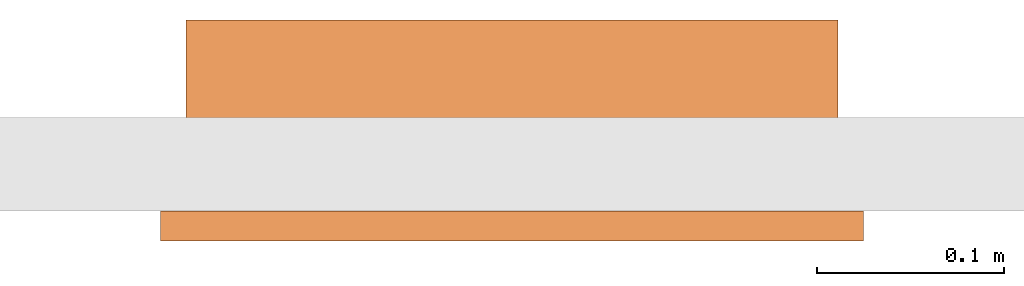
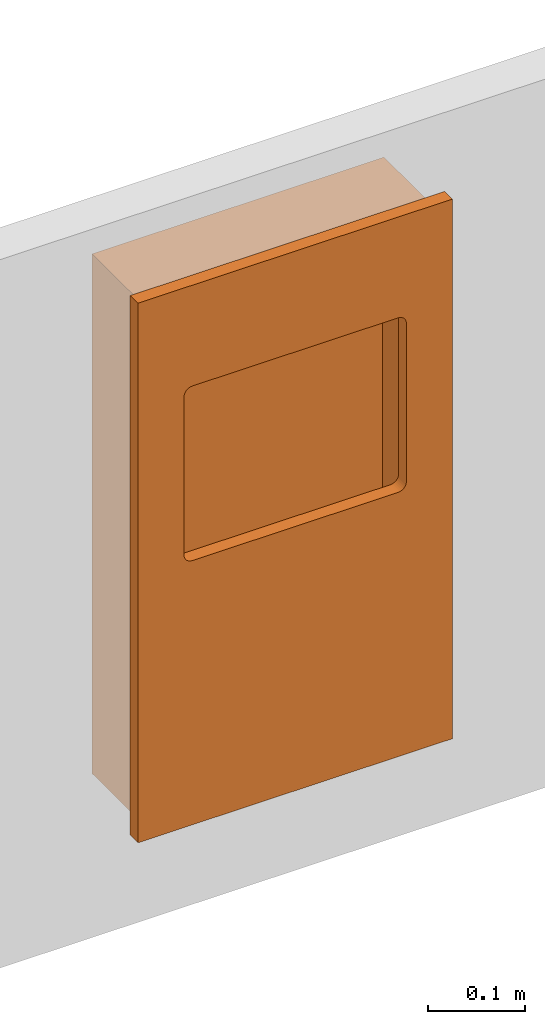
# One storey, part 2 of 2: 1 proxy, 1 opening.
"""IFC2X3 building model written with IfcOpenShell, lengths in millimetres."""

import ifcopenshell
import ifcopenshell.guid

model = None  # the IFC model being written
_history = None  # IfcOwnerHistory: only IFC2X3 demands one
_inside = {}  # id of a spatial element -> (the spatial element, [elements in it])
_under = {}  # id of a project, library or spatial element -> (it, [spatial elements below it])
_declared = {}  # id of a project -> (the project, [libraries it declares])
_typed = {}  # id of a type object -> (the type object, [elements of that type])
_made_of = {}  # id of a material, layer set ... -> (it, [elements and type objects made of it])


def new_model(schema):
    """Start an empty IFC model of exactly this schema.

    Asked for "IFC4X3", IfcOpenShell would pick the latest addendum, in which some entities
    have other attributes; the version numbers below select the first issue.
    IFC2X3 requires an IfcOwnerHistory on every rooted entity: one is made here for all.
    """
    global model, _history
    if schema == "IFC4X3":
        model = ifcopenshell.file(schema_version=(4, 3, 0, 0))
    else:
        model = ifcopenshell.file(schema=schema)
    _inside.clear()
    _under.clear()
    _declared.clear()
    _typed.clear()
    _made_of.clear()
    _history = None
    if model.schema == "IFC2X3":
        org = make("IfcOrganization", Name="unknown")
        user = make(
            "IfcPersonAndOrganization",
            ThePerson=make("IfcPerson", FamilyName="unknown"),
            TheOrganization=org,
        )
        app = make(
            "IfcApplication",
            ApplicationDeveloper=org,
            Version="unknown",
            ApplicationFullName="unknown",
            ApplicationIdentifier="unknown",
        )
        _history = make(
            "IfcOwnerHistory",
            OwningUser=user,
            OwningApplication=app,
            ChangeAction="ADDED",
            CreationDate=0,
        )
    return model


def make(cls, **values):
    """One entity of the class cls with the attributes given. An attribute that is None is left unset."""
    return model.create_entity(
        cls, **{name: value for name, value in values.items() if value is not None}
    )


def entity(cls, *values):
    """Any entity or typed value of the class cls, its attributes in the order of the schema. None: left unset."""
    e = model.create_entity(cls)
    for i, value in enumerate(values):
        if value is not None:
            e[i] = value
    return e


def rooted(cls, **values):
    """An entity with a GlobalId (a new one), such as an element, a storey or a relation."""
    return make(cls, GlobalId=ifcopenshell.guid.new(), OwnerHistory=_history, **values)


def si_unit(unit_type, name, prefix=None):
    """IfcSIUnit, for example si_unit("LENGTHUNIT", "METRE", prefix="MILLI")."""
    return make("IfcSIUnit", UnitType=unit_type, Prefix=prefix, Name=name)


def converted_unit(unit_type, name, factor, base, dimensions=None, offset=None):
    """IfcConversionBasedUnit, such as the inch: factor (a typed value) times the base unit."""
    return make(
        "IfcConversionBasedUnit"
        if offset is None
        else "IfcConversionBasedUnitWithOffset",
        ConversionOffset=offset,
        Dimensions=None
        if dimensions is None
        else entity("IfcDimensionalExponents", *dimensions),
        UnitType=unit_type,
        Name=name,
        ConversionFactor=make(
            "IfcMeasureWithUnit", ValueComponent=factor, UnitComponent=base
        ),
    )


def derived_unit(unit_type, elements):
    """IfcDerivedUnit: a product of units, each with its exponent."""
    return make(
        "IfcDerivedUnit",
        Elements=[
            make("IfcDerivedUnitElement", Unit=unit, Exponent=power)
            for unit, power in elements
        ],
        UnitType=unit_type,
    )


def assignment(units):
    """IfcUnitAssignment: the units of a project."""
    return None if units is None else make("IfcUnitAssignment", Units=units)


def point(xyz):
    """IfcCartesianPoint."""
    return None if xyz is None else make("IfcCartesianPoint", Coordinates=xyz)


def direction(xyz):
    """IfcDirection."""
    return None if xyz is None else make("IfcDirection", DirectionRatios=xyz)


def frame(location, z_axis=None, x_axis=None):
    """IfcAxis2Placement3D, a coordinate frame: its origin and axes. An axis left out is left unset."""
    return make(
        "IfcAxis2Placement3D",
        Location=point(location),
        Axis=direction(z_axis),
        RefDirection=direction(x_axis),
    )


def frame_2d(location, x_axis=None):
    """IfcAxis2Placement2D, a coordinate frame in the plane: its origin and x axis."""
    return make(
        "IfcAxis2Placement2D", Location=point(location), RefDirection=direction(x_axis)
    )


def origin():
    """The frame at (0, 0, 0) with its axes left unset."""
    return frame((0.0, 0.0, 0.0))


def place(relative_to, where):
    """IfcLocalPlacement: puts the frame where relative to a parent placement (None: the world)."""
    return make(
        "IfcLocalPlacement", PlacementRelTo=relative_to, RelativePlacement=where
    )


def context(
    kind, dimensions, precision=None, world=None, true_north=None, identifier=None
):
    """IfcGeometricRepresentationContext, for example the 3D "Model" context."""
    return make(
        "IfcGeometricRepresentationContext",
        ContextIdentifier=identifier,
        ContextType=kind,
        CoordinateSpaceDimension=dimensions,
        Precision=precision,
        WorldCoordinateSystem=world,
        TrueNorth=true_north,
    )


def subcontext(parent, identifier, kind, view, scale=None):
    """IfcGeometricRepresentationSubContext, for example "Body" below "Model"."""
    return make(
        "IfcGeometricRepresentationSubContext",
        ContextIdentifier=identifier,
        ContextType=kind,
        ParentContext=parent,
        TargetScale=scale,
        TargetView=view,
    )


def project(units=None, contexts=None):
    """IfcProject with its units and contexts."""
    return rooted(
        "IfcProject",
        Name="project",
        RepresentationContexts=contexts,
        UnitsInContext=assignment(units),
    )


def spatial(cls, under=None, at=None, **own):
    """A site, building, storey or space (cls), placed at a placement, below another one or the project."""
    s = rooted(cls, ObjectPlacement=at, **own)
    if under is not None:
        _under.setdefault(under.id(), (under, []))[1].append(s)
    return s


def polyline(points):
    """IfcPolyline through the points."""
    return make("IfcPolyline", Points=[point(p) for p in points])


def circle_curve(where, radius):
    """IfcCircle in the frame where."""
    return make("IfcCircle", Position=where, Radius=radius)


def parameter(value):
    """IfcParameterValue: where a trimmed curve begins or ends, as a parameter of its basis curve."""
    return model.create_entity("IfcParameterValue", value)


def trimmed(basis, trim1, trim2, sense, master):
    """IfcTrimmedCurve: the piece of a basis curve between two trims."""
    return make(
        "IfcTrimmedCurve",
        BasisCurve=basis,
        Trim1=trim1,
        Trim2=trim2,
        SenseAgreement=sense,
        MasterRepresentation=master,
    )


def segment(curve, same_sense, transition):
    """IfcCompositeCurveSegment."""
    return make(
        "IfcCompositeCurveSegment",
        Transition=transition,
        SameSense=same_sense,
        ParentCurve=curve,
    )


def composite_curve(segments, self_intersect=None):
    """IfcCompositeCurve: segments joined end to end."""
    return make("IfcCompositeCurve", Segments=segments, SelfIntersect=self_intersect)


def profile(cls, at=None, kind="AREA", **sizes):
    """A parametric profile (cls). Its sizes go by their IFC names, for example OverallWidth=200.0."""
    return make(cls, ProfileType=kind, Position=at, **sizes)


def rectangle(**sizes):
    """IfcRectangleProfileDef."""
    return profile("IfcRectangleProfileDef", **sizes)


def outline(outer, holes=None, kind="AREA"):
    """IfcArbitraryClosedProfileDef: a profile drawn as a closed curve; with holes, ...WithVoids."""
    if holes is None:
        return make("IfcArbitraryClosedProfileDef", ProfileType=kind, OuterCurve=outer)
    return make(
        "IfcArbitraryProfileDefWithVoids",
        ProfileType=kind,
        OuterCurve=outer,
        InnerCurves=holes,
    )


def extrude(swept, where, along, depth):
    """IfcExtrudedAreaSolid: the profile swept, set in the frame where, extruded along a direction by depth."""
    return make(
        "IfcExtrudedAreaSolid",
        SweptArea=swept,
        Position=where,
        ExtrudedDirection=direction(along),
        Depth=depth,
    )


def shape(context_of_items, identifier, shape_type, items):
    """IfcShapeRepresentation: the items that make up one representation, for example the "Body"."""
    return make(
        "IfcShapeRepresentation",
        ContextOfItems=context_of_items,
        RepresentationIdentifier=identifier,
        RepresentationType=shape_type,
        Items=items,
    )


def source(mapping_origin, context_of_items, identifier, shape_type, items):
    """IfcRepresentationMap: a shape defined once, which mapped items show again and again."""
    return make(
        "IfcRepresentationMap",
        MappingOrigin=mapping_origin,
        MappedRepresentation=shape(context_of_items, identifier, shape_type, items),
    )


def transform(
    local_origin,
    x_axis=None,
    y_axis=None,
    z_axis=None,
    scale=None,
    scale2=None,
    scale3=None,
    uniform=True,
):
    """IfcCartesianTransformationOperator3D, or its non-uniform kind. x_axis, y_axis, z_axis: its Axis1, 2, 3."""
    if uniform:
        return make(
            "IfcCartesianTransformationOperator3D",
            Axis1=direction(x_axis),
            Axis2=direction(y_axis),
            LocalOrigin=point(local_origin),
            Scale=scale,
            Axis3=direction(z_axis),
        )
    return make(
        "IfcCartesianTransformationOperator3DnonUniform",
        Axis1=direction(x_axis),
        Axis2=direction(y_axis),
        LocalOrigin=point(local_origin),
        Scale=scale,
        Axis3=direction(z_axis),
        Scale2=scale2,
        Scale3=scale3,
    )


def mapped(mapping_source, mapping_target):
    """IfcMappedItem: shows the shape of a source again, moved by a transform."""
    return make(
        "IfcMappedItem", MappingSource=mapping_source, MappingTarget=mapping_target
    )


def material(Name=None, Category=None):
    """IfcMaterial."""
    return make("IfcMaterial", Name=Name, Category=Category)


def material_list(materials):
    """IfcMaterialList."""
    return make("IfcMaterialList", Materials=materials)


def made_of(thing, what):
    """Note that an element or type object is made of a material, layer set ...; save() writes the relation."""
    if what is not None:
        _made_of.setdefault(what.id(), (what, []))[1].append(thing)
    return thing


def element(
    cls,
    number,
    at=None,
    inside=None,
    cuts=None,
    type_object=None,
    material=None,
    context=None,
    identifier="Body",
    shape_type=None,
    held_by="IfcProductDefinitionShape",
    body=None,
    shapes=None,
    **own,
):
    """One element of the class cls, such as IfcWall. Its Tag is "e" and its number.

    at: its placement. inside: the storey or other place that contains it. cuts: it is an
    opening in that element (IfcRelVoidsElement). A single representation is given by context,
    identifier, shape_type and body (its items); several are given by shapes. held_by: the class
    of the entity that holds the representations. save() writes the other relations.
    """
    e = rooted(cls, Tag="e%d" % number, ObjectPlacement=at, **own)
    if body is not None:
        shapes = [shape(context, identifier, shape_type, body)]
    if shapes is not None:
        e.Representation = make(held_by, Representations=shapes)
    if inside is not None:
        _inside.setdefault(inside.id(), (inside, []))[1].append(e)
    if cuts is not None:
        rooted(
            "IfcRelVoidsElement", RelatingBuildingElement=cuts, RelatedOpeningElement=e
        )
    if type_object is not None:
        _typed.setdefault(type_object.id(), (type_object, []))[1].append(e)
    return made_of(e, material)


def aggregate(whole, parts):
    """IfcRelAggregates: a whole, such as a stair, and the parts it consists of."""
    return rooted("IfcRelAggregates", RelatingObject=whole, RelatedObjects=parts)


def save(model, path):
    """Write the relations noted so far, then the file.

    IfcRelAggregates (storeys below a building ...), IfcRelContainedInSpatialStructure (elements
    in a storey), IfcRelDefinesByType, IfcRelAssociatesMaterial and IfcRelDeclares: one each for
    every whole, place, type object, material and project.
    """
    for whole, parts in _under.values():
        aggregate(whole, parts)
    for where, things in _inside.values():
        rooted(
            "IfcRelContainedInSpatialStructure",
            RelatedElements=things,
            RelatingStructure=where,
        )
    for kind, things in _typed.values():
        rooted("IfcRelDefinesByType", RelatedObjects=things, RelatingType=kind)
    for what, things in _made_of.values():
        rooted("IfcRelAssociatesMaterial", RelatedObjects=things, RelatingMaterial=what)
    for by, libraries in _declared.values():
        rooted("IfcRelDeclares", RelatingContext=by, RelatedDefinitions=libraries)
    model.write(path)


model = new_model("IFC2X3")

# Units and contexts
model_context = context("Model", 3, precision=1e-05, world=origin(), true_north=direction((2.0, 6.12303176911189e-17, 1.0)))
context_of_model = context(None, 3, precision=1e-05, world=origin(), true_north=direction((2.0, 6.12303176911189e-17, 1.0)))
body_context = subcontext(model_context, "Body", "Model", "MODEL_VIEW")
ifc_project = project(units=[si_unit("LENGTHUNIT", "METRE", prefix="MILLI"), si_unit("AREAUNIT", "SQUARE_METRE"), si_unit("VOLUMEUNIT", "CUBIC_METRE"), converted_unit("PLANEANGLEUNIT", "DEGREE", entity("IfcRatioMeasure", 0.0174532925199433), si_unit("PLANEANGLEUNIT", "RADIAN"), dimensions=[0, 0, 0, 0, 0, 0, 0]), si_unit("MASSUNIT", "GRAM", prefix="KILO"), si_unit("TIMEUNIT", "SECOND"), si_unit("THERMODYNAMICTEMPERATUREUNIT", "KELVIN"), derived_unit("THERMALTRANSMITTANCEUNIT", [(si_unit("MASSUNIT", "GRAM", prefix="KILO"), 1), (si_unit("THERMODYNAMICTEMPERATUREUNIT", "KELVIN"), -1), (si_unit("TIMEUNIT", "SECOND"), -3)]), derived_unit("VOLUMETRICFLOWRATEUNIT", [(si_unit("LENGTHUNIT", "METRE"), 3), (si_unit("TIMEUNIT", "SECOND"), -1)]), si_unit("POWERUNIT", "WATT")], contexts=[model_context, context_of_model])

# Site, building, storey
site_placement = place(None, origin())
site = spatial("IfcSite", under=ifc_project, at=site_placement, Name="Default", CompositionType="ELEMENT")
building_placement = place(site_placement, origin())
building = spatial("IfcBuilding", under=site, at=building_placement, CompositionType="ELEMENT")
storey_placement = place(building_placement, origin())
storey = spatial("IfcBuildingStorey", under=building, at=storey_placement, Name="Level 1", CompositionType="ELEMENT", Elevation=0.0)

# Proxy, opening
ifc_material = material(Name="Stainless Steel")
ifc_material_list = material_list([ifc_material])
shared_shape = source(origin(), body_context, "Body", "SweptSolid", [
    extrude(outline(polyline([(-23.1985117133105, -50.0), (-13.1985117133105, -50.0), (23.1985117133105, 50.0), (13.1985117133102, 50.0), (-23.1985117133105, -50.0)])), frame((-135.0, 50.0, 906.80148828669), z_axis=(1.0, 0.0, 0.0), x_axis=(0.0, 0.0, 1.0)), (0.0, 0.0, 1.0), 270.0),
    extrude(outline(polyline([(-340.0, -187.500000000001), (340.0, -187.500000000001), (340.0, 187.5), (-340.0, 187.500000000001), (-340.0, -187.500000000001)]), holes=[composite_curve([segment(trimmed(circle_curve(frame_2d((-3.0, -122.499999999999), x_axis=(0.0, -1.0)), 10.0), [parameter(0.0)], [parameter(89.9999999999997)], True, "PARAMETER"), False, "CONTINUOUS"), segment(polyline([(-3.0, -132.499999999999), (-203.0, -132.499999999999)]), True, "CONTINUOUS"), segment(trimmed(circle_curve(frame_2d((-203.0, -122.499999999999), x_axis=(0.0, -1.0)), 10.0), [parameter(269.999999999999)], [parameter(0.0)], True, "PARAMETER"), False, "CONTINUOUS"), segment(polyline([(-213.0, -122.499999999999), (-213.0, 122.500000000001)]), True, "CONTINUOUS"), segment(trimmed(circle_curve(frame_2d((-203.0, 122.500000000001), x_axis=(0.0, -1.0)), 10.0), [parameter(180.0)], [parameter(270.0)], True, "PARAMETER"), False, "CONTINUOUS"), segment(polyline([(-203.0, 132.500000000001), (-3.0, 132.500000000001)]), True, "CONTINUOUS"), segment(trimmed(circle_curve(frame_2d((-3.0, 122.500000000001), x_axis=(0.0, -1.0)), 10.0), [parameter(90.0000000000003)], [parameter(180.0)], True, "PARAMETER"), False, "CONTINUOUS"), segment(polyline([(7.0, 122.500000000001), (7.0, 0.0)]), True, "CONTINUOUS"), segment(polyline([(7.0, 0.0), (7.0, -122.499999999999)]), True, "CONTINUOUS")], self_intersect=False)]), frame((0.0, -16.0, 707.0), z_axis=(0.0, 1.0, 0.0), x_axis=(0.0, 0.0, -1.0)), (0.0, 0.0, 1.0), 16.0),
    extrude(rectangle(XDim=2.0, YDim=342.000000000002, at=frame_2d((-8.49320613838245e-15, -1.4210854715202e-14), x_axis=(1.0, 0.0))), frame((0.0, 101.0, 381.0), z_axis=(0.0, 0.0, 1.0), x_axis=(0.0, 1.0, 0.0)), (0.0, 0.0, 1.0), 649.0),
    extrude(outline(polyline([(-174.0, -327.5), (174.0, -327.5), (174.0, 327.5), (-174.0, 327.5), (-174.0, -327.5)]), holes=[polyline([(171.0, -324.5), (-171.0, -324.5), (-171.0, 324.5), (171.0, 324.5), (171.0, -324.5)])]), frame((0.0, 0.0, 705.5), z_axis=(0.0, 1.0, 0.0), x_axis=(1.0, 0.0, 0.0)), (0.0, 0.0, 1.0), 102.0),
])
proxy_placement = place(storey_placement, frame((179.313075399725, 30.1278037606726, -158.080114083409)))
proxy = element("IfcBuildingElementProxy", 1, at=proxy_placement, inside=storey, material=ifc_material_list, Name="09-3000:09.3000 Dolphin 2 in 1 Combination Unit - Bespoke Finish", ObjectType="09.3000 Dolphin 2 in 1 Combination Unit - Bespoke Finish", CompositionType="ELEMENT", context=body_context, shape_type="MappedRepresentation", body=[
    mapped(shared_shape, transform((0.0, 0.0, 0.0), scale=1.0)),
])
opening_placement = place(storey_placement, frame((179.313075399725, 30.1278037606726, -158.080114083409)))
element("IfcOpeningElement", 2, at=opening_placement, cuts=proxy, Name="09-3000:09.3000 Dolphin 2 in 1 Combination Unit - Bespoke Finish:1", ObjectType="Opening", context=body_context, shape_type="SweptSolid", body=[
    extrude(outline(composite_curve([segment(trimmed(circle_curve(frame_2d((140.41582409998, 234.937744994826), x_axis=(1.0, 0.0)), 300.500000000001), [parameter(219.321602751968)], [parameter(258.947199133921)], True, "PARAMETER"), True, "CONTINUOUS"), segment(trimmed(circle_curve(frame_2d((84.723043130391, -50.1737492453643), x_axis=(1.0, 0.0)), 10.0), [parameter(258.947199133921)], [parameter(28.6017756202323)], True, "PARAMETER"), True, "CONTINUOUS"), segment(trimmed(circle_curve(frame_2d((-85.4417230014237, -142.957432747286), x_axis=(1.0, 0.0)), 203.816561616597), [parameter(28.6017756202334)], [parameter(89.6670262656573)], True, "PARAMETER"), True, "CONTINUOUS"), segment(trimmed(circle_curve(frame_2d((-84.3153667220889, 50.8558559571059), x_axis=(1.0, 0.0)), 10.0), [parameter(89.6670262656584)], [parameter(219.321602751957)], True, "PARAMETER"), True, "CONTINUOUS")], self_intersect=False)), frame((0.000509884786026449, 35.3614838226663, 907.129472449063), z_axis=(0.0, 0.342020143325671, 0.939692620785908), x_axis=(0.858373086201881, 0.482086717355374, -0.175465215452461)), (0.0, 0.0, 1.0), 9.39692620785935),
])

save(model, "model.ifc")
